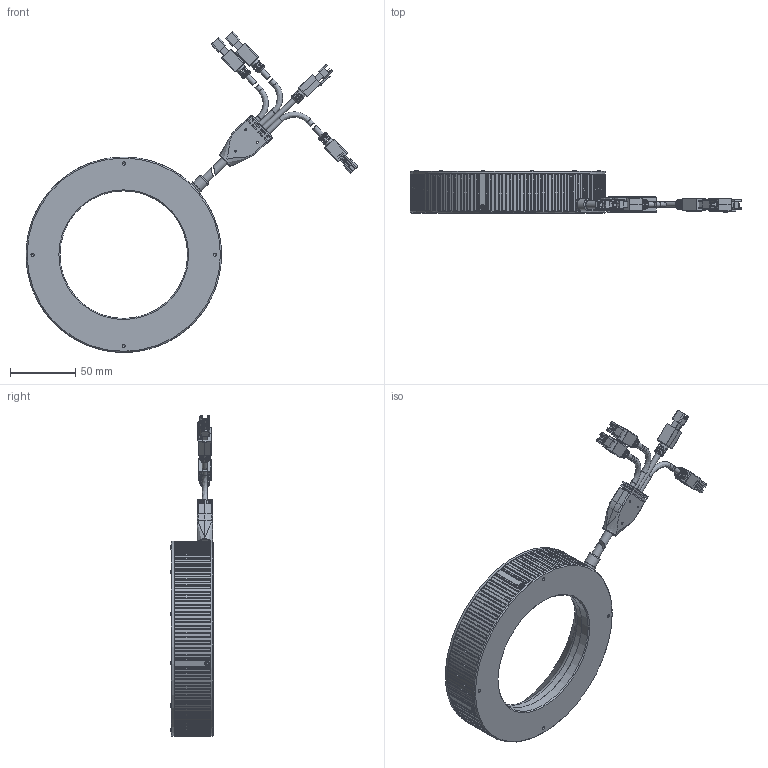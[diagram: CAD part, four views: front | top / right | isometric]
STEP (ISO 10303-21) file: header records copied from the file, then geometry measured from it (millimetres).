
FILE_DESCRIPTION (( 'STEP AP203' ), '1' );
FILE_NAME ('OPT-MSRI15045-X-V1.0U尨砩芞.STEP', '2025-02-12T03:13:30', ( '' ), ( '' ), 'SwSTEP 2.0', 'SolidWorks 2016', '' );
FILE_SCHEMA (( 'CONFIG_CONTROL_DESIGN' ));
Length unit declared in the file: millimetre
Products named in the file (1): OPT-MSRI15045-X-V1.0U尨砩芞
Bounding box: 254.83 x 32.5 x 246.27 mm (x, y, z)
Surface area: 104037.8 mm2 (no closed solid volume)
Topology: 0 solids, 31 shells, 1795 faces, 5072 edges, 3292 vertices
Faces by surface type: plane 909, cylinder 664, cone 144, bspline 58, torus 20
Full cylindrical faces by diameter (mm): 1.1 x6, 1.4 x6, 1.5 x3, 1.6 x4, 1.8 x6, 2.4 x4, 2.5 x4, 2.6 x6, 4.1 x10, 5 x1, 6.4 x2, 7.5 x4, 8.6 x1, 9.3 x1, 9.8 x1, 98 x1, 99.5 x1, 102.2 x1, 103 x1, 106.8 x1, 142 x1, 146.1 x1, 150 x2
Entity records: 65644 total; most frequent: CARTESIAN_POINT 21971, ORIENTED_EDGE 9421, DIRECTION 8188, EDGE_CURVE 4894, VERTEX_POINT 3246, AXIS2_PLACEMENT_3D 2794, LINE 2600, VECTOR 2600
